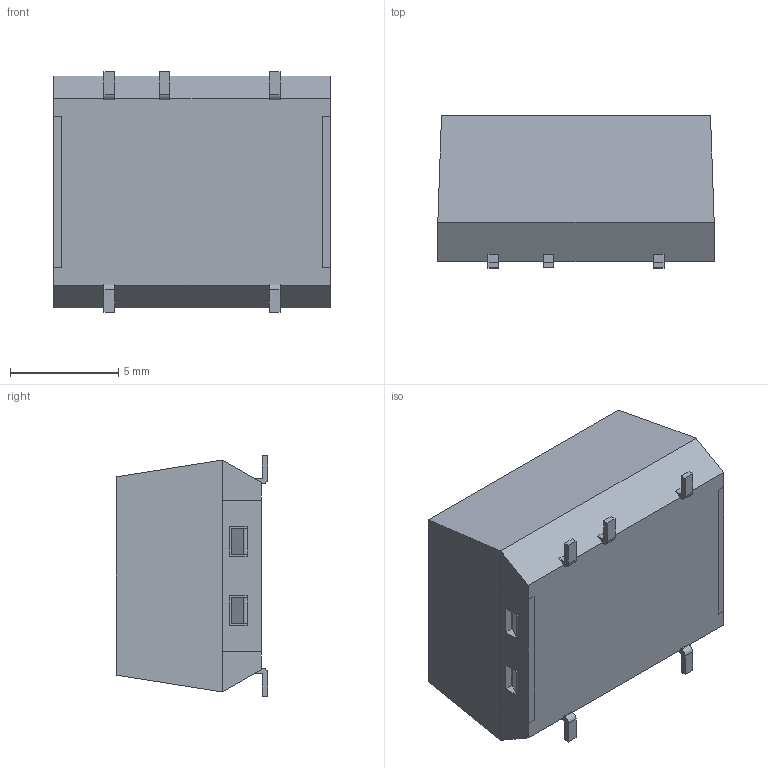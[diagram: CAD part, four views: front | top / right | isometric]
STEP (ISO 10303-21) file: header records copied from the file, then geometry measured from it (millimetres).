
FILE_DESCRIPTION(/* description */ (''),/* implementation_level */ '2;1');
FILE_NAME(/* name */ '\\192.168.1.249\ctc\上下蓋圖面查詢表\Data Sheet圖面\客戶別\CTC\DC\M series\M1SE-(P3-034-C &P3-034-HB)\Package\M1SE.stp',/* time_stamp */ '2024-05-24T11:11:56+08:00',/* author */ ('ching'),/* organization */ (''),/* preprocessor_version */ 'ST-DEVELOPER v16.5',/* originating_system */ 'Autodesk Inventor 2017',/* authorisation */ '');
FILE_SCHEMA (('AUTOMOTIVE_DESIGN { 1 0 10303 214 3 1 1 }'));
Length unit declared in the file: millimetre
Products named in the file (1): M1SE
Bounding box: 12.75 x 7 x 11.1 mm (x, y, z)
Volume: 833.6 mm3; surface area: 865.2 mm2
Topology: 7 solids, 7 shells, 116 faces, 290 edges, 192 vertices
Faces by surface type: plane 107, cylinder 9
Entity records: 3455 total; most frequent: CARTESIAN_POINT 599, ORIENTED_EDGE 580, DIRECTION 542, EDGE_CURVE 290, LINE 272, VECTOR 272, VERTEX_POINT 192, AXIS2_PLACEMENT_3D 135
